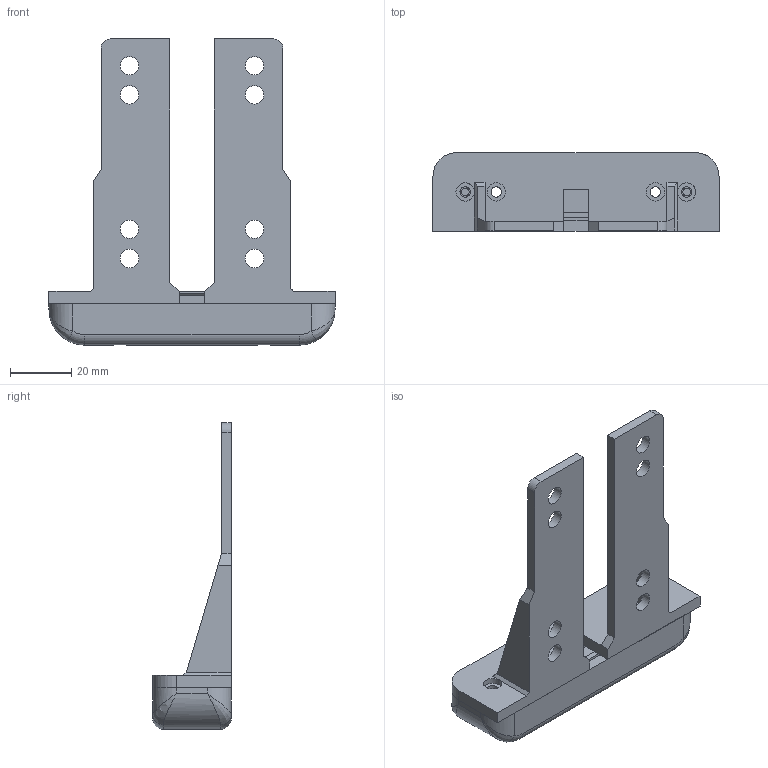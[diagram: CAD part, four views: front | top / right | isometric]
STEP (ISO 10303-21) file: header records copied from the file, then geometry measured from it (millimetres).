
FILE_DESCRIPTION(/* description */ (''),/* implementation_level */ '2;1');
FILE_NAME(/* name */ 'D:/_My Docs on T530/Matt''s Homework/Projects/GitHub/TTL-HW/STEPs/Head Light - v2 v6.step',/* time_stamp */ '2021-03-21T23:36:09-04:00',/* author */ (''),/* organization */ (''),/* preprocessor_version */ 'ST-DEVELOPER v18.1',/* originating_system */ 'Autodesk Translation Framework v9.10.0.1330',/* authorisation */ '');
FILE_SCHEMA (('AUTOMOTIVE_DESIGN { 1 0 10303 214 3 1 1 }'));
Length unit declared in the file: millimetre
Products named in the file (3): Head Light - v2; Light Mount; Cover Head
Assembly tree (2 placements, depth 2):
  Head Light - v2
    Light Mount
    Cover Head
Bounding box: 93.55 x 25.7 x 100.13 mm (x, y, z)
Volume: 38120.7 mm3; surface area: 24420.3 mm2
Topology: 2 solids, 2 shells, 151 faces, 429 edges, 276 vertices
Faces by surface type: plane 97, cylinder 46, bspline 4, torus 4
Full cylindrical faces by diameter (mm): 2.5 x2, 3.4 x4, 6 x12, 20.2 x2
Entity records: 5391 total; most frequent: CARTESIAN_POINT 1208, DIRECTION 855, ORIENTED_EDGE 850, EDGE_CURVE 425, AXIS2_PLACEMENT_3D 289, LINE 277, VECTOR 277, VERTEX_POINT 276
